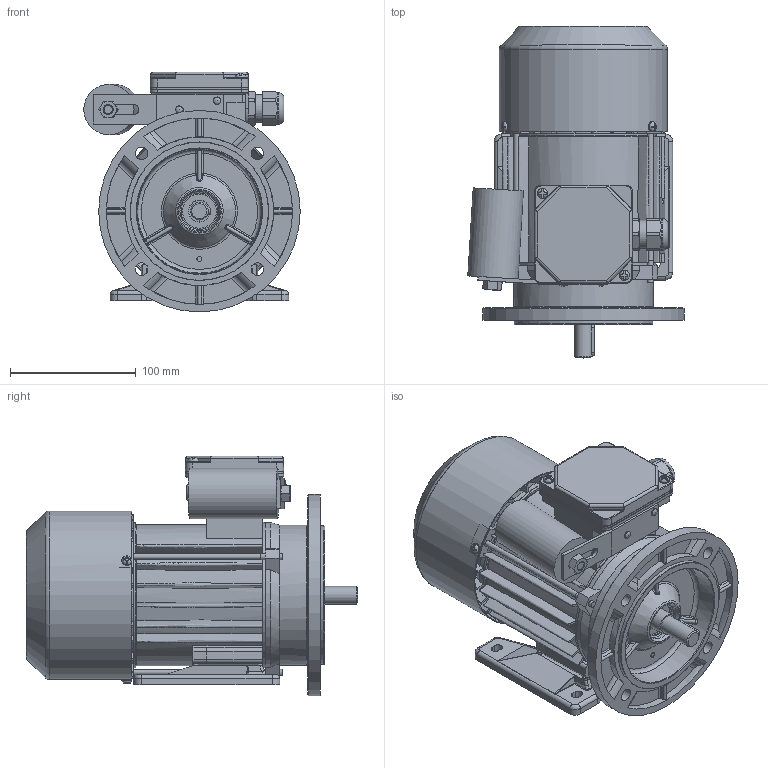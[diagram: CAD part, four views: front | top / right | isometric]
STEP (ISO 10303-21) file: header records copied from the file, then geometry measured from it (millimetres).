
FILE_DESCRIPTION( ( 'Unknown' ), '1' );
FILE_NAME( 'G:/Poczta Tk-1/STP/w.m.71/SEh71/SELh71-C.stp', 'Unknown', ( 'K. Szlosek' ), ( 'BESEL S.A.' ), 'PSStep 17.0.49', 'Unknown', ' ' );
FILE_SCHEMA( ( 'AUTOMOTIVE_DESIGN { 1 0 10303 214 1 1 1 1 }' ) );
Length unit declared in the file: millimetre
Products named in the file (35): skrznka zaciskowa jednofazowa ; K4-2820 Uszczelka nr 2 Sh71,80; K2-1131 Podstawa skrzynki zaciskowej jednofazowa; K4-2999 Uchwyt kondensatora; Nit 4x12 po skróceniu; nakrętka M8; K4-0898 Tulejka uszczelniająca; Dławnica M20x1,5; K2-0860 Pokrywka skrzynki zaciskowej; Assem1; K3-2975 Osłona przewietrznika Sh71-.B,C; K4-2320 Uszczelka nr 1 Sh71,80; K1-1194 Kadłub z zamkami Sh71-.C; K3-6469 Tarcza łożyskowa P S(E,M)h71-B,C; Wpust A5x5x25; Wkręt samogwintujący M4x8; Nitokołek A 2x6; k3-4489 Wał SKh71 x-2C1; Wkręt samogwintujący M4x16; Kondensator zb 11-16uF Comar; K3-3984 Przewietrznik Sh71; K1-1244 Tarcza kołnierzowa B5 w.m. 71; Łożysko 6203; Śruba ściągająca E_M5x130; Tabliczka znamionowa 32x44; K1-0448 Łapa Sh71-.. 
Assembly tree (51 placements, depth 3):
  Assem1
    K3-2975 Osłona przewietrznika Sh71-.B,C
    K4-2320 Uszczelka nr 1 Sh71,80
    K1-1194 Kadłub z zamkami Sh71-.C
    K3-6469 Tarcza łożyskowa P S(E,M)h71-B,C
    Wpust A5x5x25
    Wkręt samogwintujący M4x8  x3
    Nitokołek A 2x6  x2
    k3-4489 Wał SKh71 x-2C1
    Wkręt samogwintujący M4x16  x2
    Kondensator zb 11-16uF Comar
    K3-3984 Przewietrznik Sh71
    K1-1244 Tarcza kołnierzowa B5 w.m. 71
    Łożysko 6203  x2
    Łożysko 6203  x2
    Łożysko 6203  x2
    Łożysko 6203  x2
    Łożysko 6203  x2
    Łożysko 6203  x2
    Łożysko 6203  x2
    Łożysko 6203  x2
    Łożysko 6203  x2
    Łożysko 6203  x2
    Śruba ściągająca E_M5x130  x3
    Tabliczka znamionowa 32x44
    K1-0448 Łapa Sh71-.. 
    skrznka zaciskowa jednofazowa 
      K4-2820 Uszczelka nr 2 Sh71,80
      K2-1131 Podstawa skrzynki zaciskowej jednofazowa
      K4-2999 Uchwyt kondensatora
      Nit 4x12 po skróceniu  x2
      nakrętka M8
      K4-0898 Tulejka uszczelniająca
      Dławnica M20x1,5
      K2-0860 Pokrywka skrzynki zaciskowej
Bounding box: 171.81 x 263.5 x 190.5 mm (x, y, z)
Volume: 889276.9 mm3; surface area: 506909.8 mm2
Topology: 50 solids, 66 shells, 2606 faces, 6990 edges, 4458 vertices
Faces by surface type: plane 1060, cylinder 765, bspline 389, torus 177, cone 171, sphere 44
Full cylindrical faces by diameter (mm): 2 x2, 2.4 x2, 3 x1, 3.7 x7, 3.8 x4, 4 x8, 4.2 x3, 4.3 x2, 4.5 x3, 4.6 x3, 4.8 x4, 5 x7, 5.5 x3, 5.8 x4, 6 x2, 6.5 x1, 6.647 x1, 7 x1, 8 x10, 10 x6, 14 x1, 15.9 x1, 16.1 x1, 16.5 x1, 17 x4, 17.4 x2, 18.376 x1, 18.38 x1, 20 x1, 22 x2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
Entity records: 150965 total; most frequent: CARTESIAN_POINT 73454, ORIENTED_EDGE 12416, DIRECTION 11201, EDGE_CURVE 6208, AXIS2_PLACEMENT_3D 4266, VERTEX_POINT 4115, EDGE_LOOP 2901, LINE 2669
